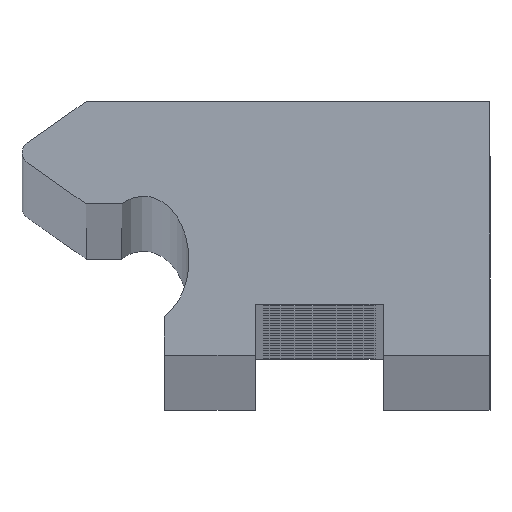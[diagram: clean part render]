
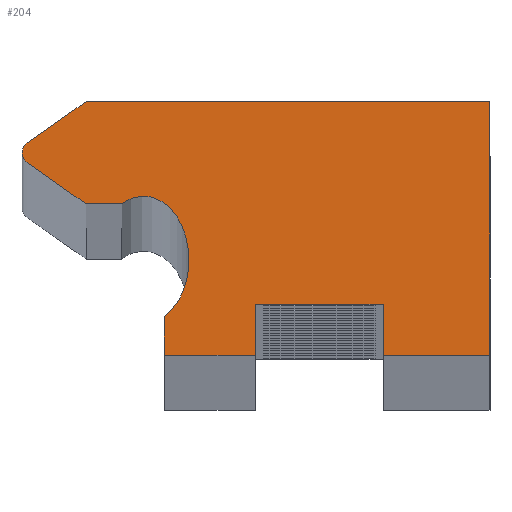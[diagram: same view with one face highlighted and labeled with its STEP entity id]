
A CAD part, top view. The second image highlights one B-rep face of the part: STEP entity #204.
In plain terms, the highlighted planar face has unit normal (0, 0, 1).
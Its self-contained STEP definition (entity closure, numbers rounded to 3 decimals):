
#204=ADVANCED_FACE('',(#530),#531,.F.);
#530=FACE_OUTER_BOUND('',#856,.T.);
#531=PLANE('',#857);
#856=EDGE_LOOP('',(#1863,#1864,#1865,#1866,#1867,#1868,#1869,#1870,#1871,#1872,#1873,#1874,#1875,#1876,#1877,#1878,#1879,#1880));
#857=AXIS2_PLACEMENT_3D('',#1881,#1882,#1883);
#1863=ORIENTED_EDGE('',*,*,#2201,.F.);
#1864=ORIENTED_EDGE('',*,*,#2158,.F.);
#1865=ORIENTED_EDGE('',*,*,#2162,.F.);
#1866=ORIENTED_EDGE('',*,*,#2165,.F.);
#1867=ORIENTED_EDGE('',*,*,#2168,.F.);
#1868=ORIENTED_EDGE('',*,*,#2171,.F.);
#1869=ORIENTED_EDGE('',*,*,#2174,.F.);
#1870=ORIENTED_EDGE('',*,*,#2177,.F.);
#1871=ORIENTED_EDGE('',*,*,#2179,.F.);
#1872=ORIENTED_EDGE('',*,*,#1889,.F.);
#1873=ORIENTED_EDGE('',*,*,#2182,.F.);
#1874=ORIENTED_EDGE('',*,*,#2185,.F.);
#1875=ORIENTED_EDGE('',*,*,#2188,.F.);
#1876=ORIENTED_EDGE('',*,*,#2191,.T.);
#1877=ORIENTED_EDGE('',*,*,#2194,.T.);
#1878=ORIENTED_EDGE('',*,*,#2195,.T.);
#1879=ORIENTED_EDGE('',*,*,#1887,.T.);
#1880=ORIENTED_EDGE('',*,*,#2199,.T.);
#1881=CARTESIAN_POINT('',(-2.122,8.49,1976.0));
#1882=DIRECTION('',(0.,0.0,-1.0));
#1883=DIRECTION('',(-1.0,0.0,0.));
#1887=EDGE_CURVE('',#2203,#2207,#2209,.T.);
#1889=EDGE_CURVE('',#2210,#2213,#2214,.T.);
#2158=EDGE_CURVE('',#2661,#2663,#2664,.T.);
#2162=EDGE_CURVE('',#2668,#2661,#2670,.T.);
#2165=EDGE_CURVE('',#2673,#2668,#2675,.T.);
#2168=EDGE_CURVE('',#2678,#2673,#2680,.T.);
#2171=EDGE_CURVE('',#2683,#2678,#2685,.T.);
#2174=EDGE_CURVE('',#2688,#2683,#2690,.T.);
#2177=EDGE_CURVE('',#2693,#2688,#2695,.T.);
#2179=EDGE_CURVE('',#2213,#2693,#2697,.T.);
#2182=EDGE_CURVE('',#2700,#2210,#2702,.T.);
#2185=EDGE_CURVE('',#2705,#2700,#2707,.T.);
#2188=EDGE_CURVE('',#2710,#2705,#2712,.T.);
#2191=EDGE_CURVE('',#2710,#2715,#2717,.T.);
#2194=EDGE_CURVE('',#2715,#2720,#2722,.T.);
#2195=EDGE_CURVE('',#2720,#2203,#2723,.T.);
#2199=EDGE_CURVE('',#2207,#2727,#2729,.T.);
#2201=EDGE_CURVE('',#2663,#2727,#2731,.T.);
#2203=VERTEX_POINT('',#2733);
#2207=VERTEX_POINT('',#2738);
#2209=CIRCLE('',#2741,5.487);
#2210=VERTEX_POINT('',#2742);
#2213=VERTEX_POINT('',#2746);
#2214=CIRCLE('',#2747,0.76);
#2661=VERTEX_POINT('',#3284);
#2663=VERTEX_POINT('',#3287);
#2664=LINE('',#3288,#3289);
#2668=VERTEX_POINT('',#3295);
#2670=LINE('',#3298,#3299);
#2673=VERTEX_POINT('',#3303);
#2675=LINE('',#3306,#3307);
#2678=VERTEX_POINT('',#3311);
#2680=LINE('',#3314,#3315);
#2683=VERTEX_POINT('',#3319);
#2685=LINE('',#3322,#3323);
#2688=VERTEX_POINT('',#3327);
#2690=LINE('',#3330,#3331);
#2693=VERTEX_POINT('',#3335);
#2695=LINE('',#3338,#3339);
#2697=LINE('',#3342,#3343);
#2700=VERTEX_POINT('',#3346);
#2702=CIRCLE('',#3349,0.76);
#2705=VERTEX_POINT('',#3353);
#2707=LINE('',#3356,#3357);
#2710=VERTEX_POINT('',#3361);
#2712=LINE('',#3364,#3365);
#2715=VERTEX_POINT('',#3368);
#2717=CIRCLE('',#3371,2.11);
#2720=VERTEX_POINT('',#3374);
#2722=CIRCLE('',#3377,3.416);
#2723=CIRCLE('',#3378,5.487);
#2727=VERTEX_POINT('',#3382);
#2729=CIRCLE('',#3385,3.873);
#2731=LINE('',#3388,#3389);
#2733=CARTESIAN_POINT('',(-8.17,5.982,1976.0));
#2738=CARTESIAN_POINT('',(-8.395,4.427,1976.0));
#2741=AXIS2_PLACEMENT_3D('',#3395,#3396,#3397);
#2742=CARTESIAN_POINT('',(-18.625,12.7,1976.0));
#2746=CARTESIAN_POINT('',(-18.301,13.323,1976.0));
#2747=AXIS2_PLACEMENT_3D('',#3399,#3400,#3401);
#3284=CARTESIAN_POINT('',(-4.,0.0,1976.0));
#3287=CARTESIAN_POINT('',(-9.7,0.0,1976.0));
#3288=CARTESIAN_POINT('',(-4.,0.0,1976.0));
#3289=VECTOR('',#4024,1.0);
#3295=CARTESIAN_POINT('',(-4.,3.2,1976.0));
#3298=CARTESIAN_POINT('',(-4.,3.2,1976.0));
#3299=VECTOR('',#4028,1.0);
#3303=CARTESIAN_POINT('',(4.,3.2,1976.0));
#3306=CARTESIAN_POINT('',(4.,3.2,1976.0));
#3307=VECTOR('',#4031,1.0);
#3311=CARTESIAN_POINT('',(4.,0.0,1976.0));
#3314=CARTESIAN_POINT('',(4.,0.0,1976.0));
#3315=VECTOR('',#4034,1.0);
#3319=CARTESIAN_POINT('',(10.7,0.0,1976.0));
#3322=CARTESIAN_POINT('',(10.7,0.0,1976.0));
#3323=VECTOR('',#4037,1.0);
#3327=CARTESIAN_POINT('',(10.7,15.91,1976.0));
#3330=CARTESIAN_POINT('',(10.7,15.91,1976.0));
#3331=VECTOR('',#4040,1.0);
#3335=CARTESIAN_POINT('',(-14.606,15.91,1976.0));
#3338=CARTESIAN_POINT('',(-14.606,15.91,1976.0));
#3339=VECTOR('',#4043,1.0);
#3342=CARTESIAN_POINT('',(-18.301,13.323,1976.0));
#3343=VECTOR('',#4045,1.0);
#3346=CARTESIAN_POINT('',(-18.301,12.077,1976.0));
#3349=AXIS2_PLACEMENT_3D('',#4050,#4051,#4052);
#3353=CARTESIAN_POINT('',(-14.606,9.49,1976.0));
#3356=CARTESIAN_POINT('',(-14.606,9.49,1976.0));
#3357=VECTOR('',#4055,1.0);
#3361=CARTESIAN_POINT('',(-12.37,9.49,1976.0));
#3364=CARTESIAN_POINT('',(-12.37,9.49,1976.0));
#3365=VECTOR('',#4058,1.0);
#3368=CARTESIAN_POINT('',(-9.849,9.644,1976.0));
#3371=AXIS2_PLACEMENT_3D('',#4063,#4064,#4065);
#3374=CARTESIAN_POINT('',(-8.587,8.079,1976.0));
#3377=AXIS2_PLACEMENT_3D('',#4070,#4071,#4072);
#3378=AXIS2_PLACEMENT_3D('',#4073,#4074,#4075);
#3382=CARTESIAN_POINT('',(-9.7,2.437,1976.0));
#3385=AXIS2_PLACEMENT_3D('',#4083,#4084,#4085);
#3388=CARTESIAN_POINT('',(-9.7,0.0,1976.0));
#3389=VECTOR('',#4087,1.0);
#3395=CARTESIAN_POINT('',(-13.657,5.982,1976.0));
#3396=DIRECTION('',(0.,0.0,-1.0));
#3397=DIRECTION('',(-1.0,0.0,0.));
#3399=CARTESIAN_POINT('',(-17.865,12.7,1976.0));
#3400=DIRECTION('',(0.,0.0,-1.0));
#3401=DIRECTION('',(-1.0,0.0,0.));
#4024=DIRECTION('',(-1.0,0.0,0.));
#4028=DIRECTION('',(0.0,-1.0,-0.0));
#4031=DIRECTION('',(-1.0,0.0,0.));
#4034=DIRECTION('',(0.0,1.0,0.0));
#4037=DIRECTION('',(-1.0,0.0,0.));
#4040=DIRECTION('',(0.0,-1.0,-0.0));
#4043=DIRECTION('',(1.0,0.0,0.));
#4045=DIRECTION('',(0.819,0.574,0.));
#4050=CARTESIAN_POINT('',(-17.865,12.7,1976.0));
#4051=DIRECTION('',(0.,0.0,-1.0));
#4052=DIRECTION('',(-1.0,0.0,0.));
#4055=DIRECTION('',(-0.819,0.574,0.));
#4058=DIRECTION('',(-1.0,0.0,0.));
#4063=CARTESIAN_POINT('',(-11.006,7.88,1976.0));
#4064=DIRECTION('',(0.,0.0,-1.0));
#4065=DIRECTION('',(-1.0,0.0,0.));
#4070=CARTESIAN_POINT('',(-11.759,6.812,1976.0));
#4071=DIRECTION('',(0.,0.0,-1.0));
#4072=DIRECTION('',(-1.0,0.0,0.));
#4073=CARTESIAN_POINT('',(-13.657,5.982,1976.0));
#4074=DIRECTION('',(0.,0.0,-1.0));
#4075=DIRECTION('',(-1.0,0.0,0.));
#4083=CARTESIAN_POINT('',(-12.129,5.453,1976.0));
#4084=DIRECTION('',(0.,0.0,-1.0));
#4085=DIRECTION('',(-1.0,0.0,0.));
#4087=DIRECTION('',(0.0,1.0,0.0));
